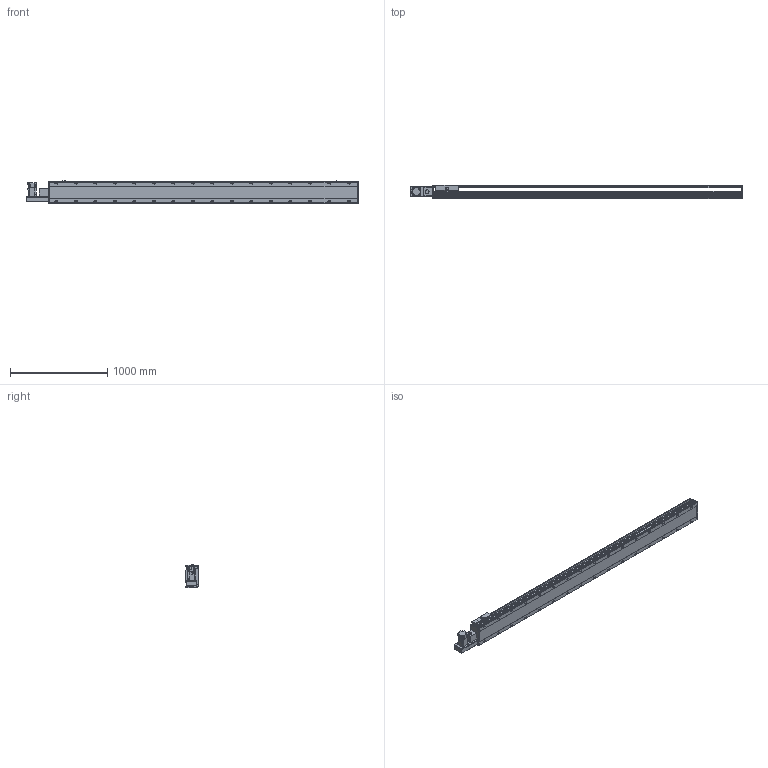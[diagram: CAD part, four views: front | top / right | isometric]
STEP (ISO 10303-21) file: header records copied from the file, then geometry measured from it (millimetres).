
FILE_DESCRIPTION(/* description */ ('STEP AP214'),/* implementation_level */ '2;1');
FILE_NAME(/* name */ 'PBS220-P40-S2800-L-T75-C1-N(0)',/* time_stamp */ '2022-06-11T09:58:09+02:00',/* author */ ('License CC BY-ND 4.0'),/* organization */ ('CADENAS'),/* preprocessor_version */ 'ST-DEVELOPER v18.102',/* originating_system */ 'PARTsolutions',/* authorisation */ ' ');
FILE_SCHEMA (('AUTOMOTIVE_DESIGN {1 0 10303 214 3 1 1}'));
Length unit declared in the file: millimetre
Products named in the file (7): PBS220-P40-S2800-L-T75-C1-N(0); PBS220_sensor; PBS220_plant; PBS220_sliser; T75-p1; PBS220T-L_motors; PBS220-S2800()_body
Assembly tree (8 placements, depth 2):
  PBS220-P40-S2800-L-T75-C1-N(0)
    PBS220_sensor  x3
    PBS220_plant
    PBS220_sliser
    T75-p1
    PBS220T-L_motors
    PBS220-S2800()_body
Bounding box: 3406 x 134 x 238.5 mm (x, y, z)
Volume: 45702705.9 mm3; surface area: 4161959.2 mm2
Topology: 8 solids, 8 shells, 1010 faces, 2620 edges, 1702 vertices
Faces by surface type: plane 630, cylinder 324, cone 56
Full cylindrical faces by diameter (mm): 2.013 x4, 4.5 x14, 4.917 x4, 6 x7, 6.647 x8, 8 x10, 8.376 x32, 8.5 x32, 10 x6, 14 x32, 38 x2, 40 x1, 70 x1
Entity records: 28125 total; most frequent: CARTESIAN_POINT 5020, DIRECTION 4887, ORIENTED_EDGE 4394, EDGE_CURVE 2197, AXIS2_PLACEMENT_3D 1763, VERTEX_POINT 1544, LINE 1361, VECTOR 1361
